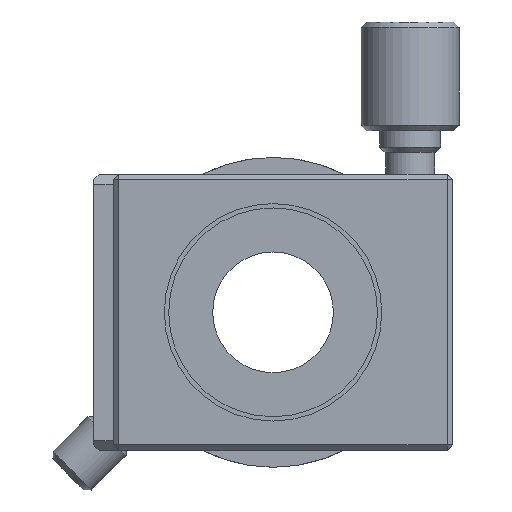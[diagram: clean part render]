
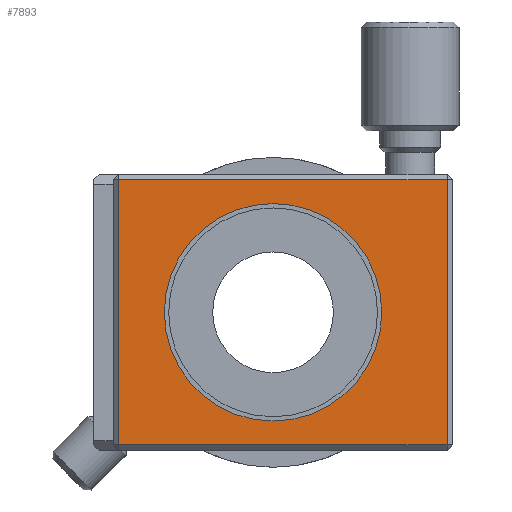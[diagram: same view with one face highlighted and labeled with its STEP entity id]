
A CAD part, front view. The second image highlights one B-rep face of the part: STEP entity #7893.
In plain terms, the highlighted planar face has unit normal (0, -1, 0).
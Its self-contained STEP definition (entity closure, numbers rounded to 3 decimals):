
#383 = CARTESIAN_POINT ( 'NONE',  ( -14.2, 0., 12.2 ) ) ;
#565 = DIRECTION ( 'NONE',  ( 0., 0., -1. ) ) ;
#752 = CARTESIAN_POINT ( 'NONE',  ( 0., 0., 0. ) ) ;
#771 = CARTESIAN_POINT ( 'NONE',  ( 0., 0., -12.2 ) ) ;
#942 = LINE ( 'NONE', #771, #6952 ) ;
#968 = CARTESIAN_POINT ( 'NONE',  ( 16., 0., 0. ) ) ;
#1132 = VERTEX_POINT ( 'NONE', #383 ) ;
#1397 = VERTEX_POINT ( 'NONE', #10897 ) ;
#1469 = DIRECTION ( 'NONE',  ( 0., -1., 0. ) ) ;
#1759 = CARTESIAN_POINT ( 'NONE',  ( -14.2, 0., 0. ) ) ;
#2073 = CARTESIAN_POINT ( 'NONE',  ( 16., 0., 12.2 ) ) ;
#2081 = EDGE_CURVE ( 'NONE', #1132, #9228, #11145, .T. ) ;
#2282 = DIRECTION ( 'NONE',  ( 0., -1., 0. ) ) ;
#3006 = EDGE_LOOP ( 'NONE', ( #10150, #5692 ) ) ;
#3008 = AXIS2_PLACEMENT_3D ( 'NONE', #8764, #2282, #5972 ) ;
#3250 = VERTEX_POINT ( 'NONE', #2073 ) ;
#3818 = DIRECTION ( 'NONE',  ( 0., 0., -1. ) ) ;
#3971 = CIRCLE ( 'NONE', #3008, 10. ) ;
#4100 = EDGE_CURVE ( 'NONE', #9228, #6094, #942, .T. ) ;
#4187 = CARTESIAN_POINT ( 'NONE',  ( 0., 0., 12.2 ) ) ;
#4304 = EDGE_CURVE ( 'NONE', #7129, #1397, #3971, .T. ) ;
#4406 = VECTOR ( 'NONE', #8355, 1000. ) ;
#4965 = CARTESIAN_POINT ( 'NONE',  ( 0., 0., 10. ) ) ;
#5043 = CARTESIAN_POINT ( 'NONE',  ( 0., 0., 0. ) ) ;
#5345 = FACE_OUTER_BOUND ( 'NONE', #10043, .T. ) ;
#5692 = ORIENTED_EDGE ( 'NONE', *, *, #4304, .F. ) ;
#5972 = DIRECTION ( 'NONE',  ( 0., 0., -1. ) ) ;
#6058 = ORIENTED_EDGE ( 'NONE', *, *, #2081, .T. ) ;
#6069 = LINE ( 'NONE', #4187, #11601 ) ;
#6094 = VERTEX_POINT ( 'NONE', #6862 ) ;
#6386 = ORIENTED_EDGE ( 'NONE', *, *, #4100, .T. ) ;
#6759 = AXIS2_PLACEMENT_3D ( 'NONE', #5043, #1469, #565 ) ;
#6862 = CARTESIAN_POINT ( 'NONE',  ( 16., 0., -12.2 ) ) ;
#6872 = VECTOR ( 'NONE', #3818, 1000. ) ;
#6952 = VECTOR ( 'NONE', #8152, 1000. ) ;
#7129 = VERTEX_POINT ( 'NONE', #4965 ) ;
#7171 = FACE_BOUND ( 'NONE', #3006, .T. ) ;
#7353 = DIRECTION ( 'NONE',  ( 1., 0., 0. ) ) ;
#7534 = DIRECTION ( 'NONE',  ( 0., 1., 0. ) ) ;
#7572 = LINE ( 'NONE', #968, #4406 ) ;
#7893 = ADVANCED_FACE ( 'NONE', ( #7171, #5345 ), #9041, .F. ) ;
#8152 = DIRECTION ( 'NONE',  ( 1., 0., 0. ) ) ;
#8355 = DIRECTION ( 'NONE',  ( 0., 0., 1. ) ) ;
#8367 = EDGE_CURVE ( 'NONE', #6094, #3250, #7572, .T. ) ;
#8545 = AXIS2_PLACEMENT_3D ( 'NONE', #752, #7534, #7353 ) ;
#8764 = CARTESIAN_POINT ( 'NONE',  ( 0., 0., 0. ) ) ;
#9041 = PLANE ( 'NONE',  #8545 ) ;
#9228 = VERTEX_POINT ( 'NONE', #10066 ) ;
#9524 = DIRECTION ( 'NONE',  ( -1., 0., 0. ) ) ;
#10043 = EDGE_LOOP ( 'NONE', ( #6386, #10647, #11845, #6058 ) ) ;
#10066 = CARTESIAN_POINT ( 'NONE',  ( -14.2, 0., -12.2 ) ) ;
#10150 = ORIENTED_EDGE ( 'NONE', *, *, #10371, .F. ) ;
#10371 = EDGE_CURVE ( 'NONE', #1397, #7129, #11967, .T. ) ;
#10430 = EDGE_CURVE ( 'NONE', #3250, #1132, #6069, .T. ) ;
#10647 = ORIENTED_EDGE ( 'NONE', *, *, #8367, .T. ) ;
#10897 = CARTESIAN_POINT ( 'NONE',  ( 0., 0., -10. ) ) ;
#11145 = LINE ( 'NONE', #1759, #6872 ) ;
#11601 = VECTOR ( 'NONE', #9524, 1000. ) ;
#11845 = ORIENTED_EDGE ( 'NONE', *, *, #10430, .T. ) ;
#11967 = CIRCLE ( 'NONE', #6759, 10. ) ;
